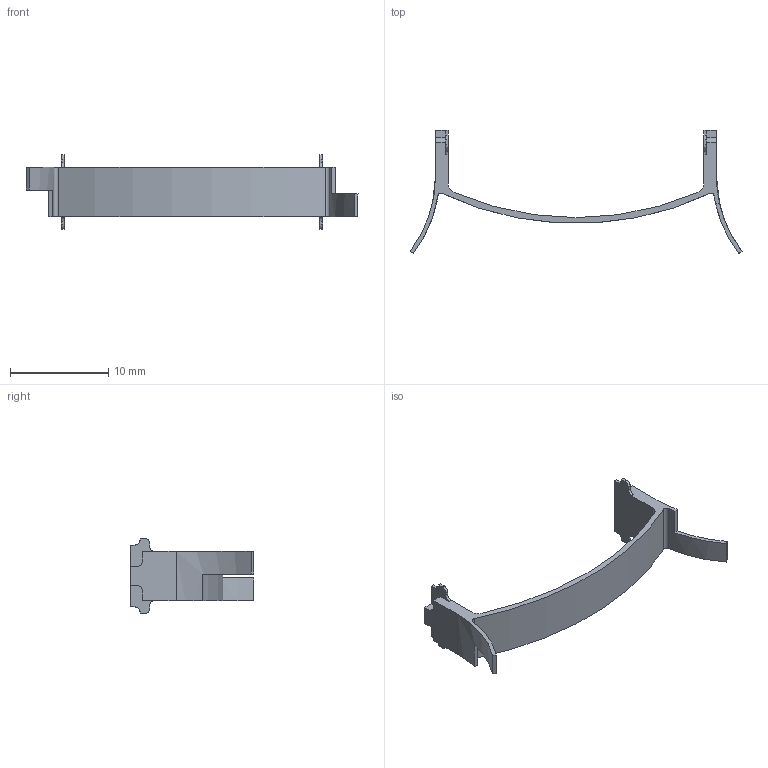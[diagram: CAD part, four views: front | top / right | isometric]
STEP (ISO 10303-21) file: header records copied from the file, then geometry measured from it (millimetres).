
FILE_DESCRIPTION((''),'2;1');
FILE_NAME('E:\端から修正\NHA-06.stp','2013-11-07T16:51:33',('AMS8'),(''),'Autodesk Inventor 2008','Autodesk Inventor 2008','');
FILE_SCHEMA(('AUTOMOTIVE_DESIGN { 1 0 10303 214 1 1 1 1 }'));
Length unit declared in the file: millimetre
Products named in the file (2): DEFAULT
Assembly tree (1 placements, depth 2):
  DEFAULT
    DEFAULT
Bounding box: 33.79 x 12.58 x 7.6 mm (x, y, z)
Volume: 176.2 mm3; surface area: 585.3 mm2
Topology: 1 solids, 1 shells, 68 faces, 198 edges, 132 vertices
Faces by surface type: plane 42, cylinder 26
Entity records: 2310 total; most frequent: CARTESIAN_POINT 401, DIRECTION 396, ORIENTED_EDGE 396, EDGE_CURVE 198, VECTOR 142, LINE 142, VERTEX_POINT 132, AXIS2_PLACEMENT_3D 127
